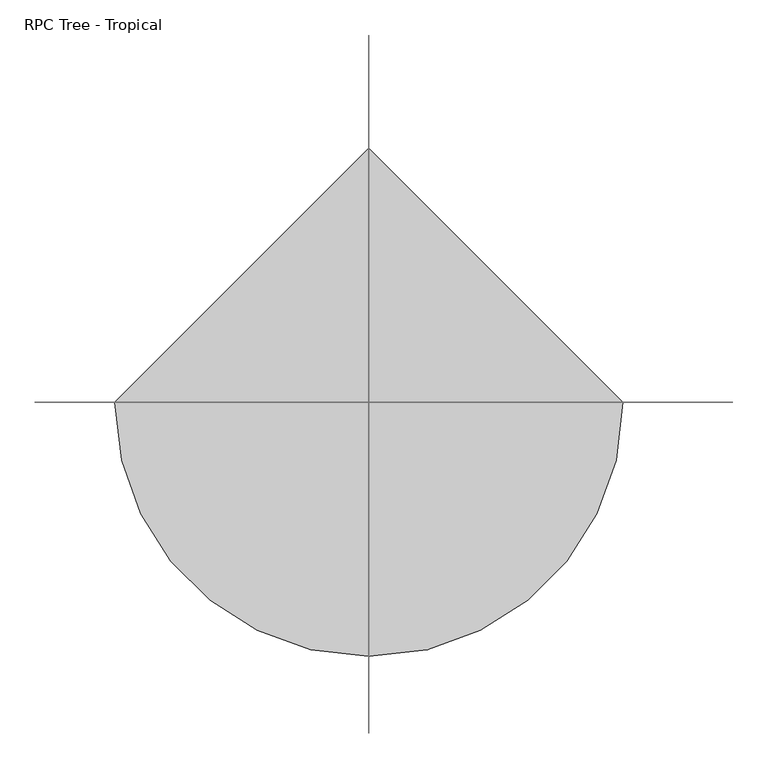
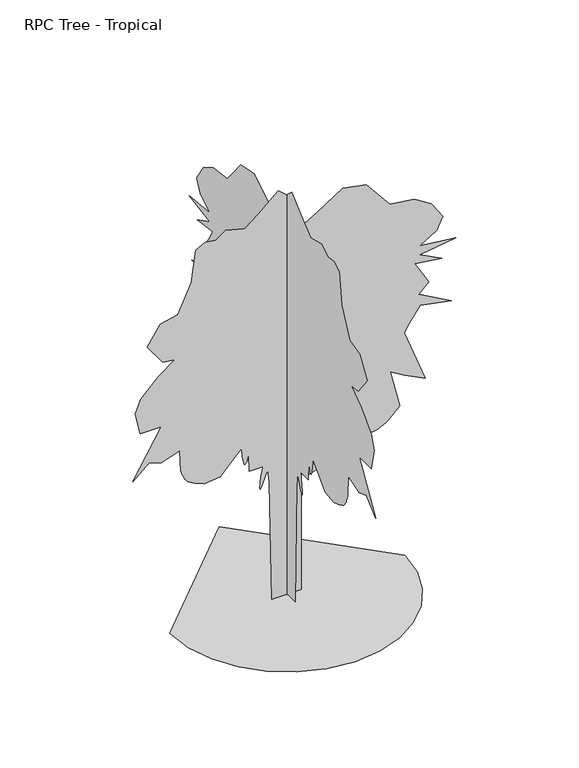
"""IFC4 building model written with IfcOpenShell, lengths in millimetres: geographic element geometry, RPC Tree - Tropical : Windmill Palm - 8'."""

from ifc_helpers import new_model, si_unit, origin, place, context, project, spatial, triangles, source, transform, mapped, element, save


def rpc_tree_tropical_d7a905c7(model_context):
    return source(origin(), model_context, "Body", "Tessellation", [
        triangles([(-0.2241189, -80.6803134, 0.0560704), (-0.2241181, -93.4507094, 708.3955685), (-0.2241176, -102.9729479, 784.5729681), (-0.2241171, -112.4304103, 759.6428038), (-0.2241163, -121.4992608, 736.1299221), (-0.2241158, -129.7908604, 715.4466642), (-0.2241156, -136.916343, 699.0127836), (-0.2241151, -142.4870876, 688.2406214), (-0.2241151, -146.1147278, 684.5474602), (-0.2241148, -147.4101338, 689.3505827), (-0.2241148, -146.9475984, 700.5392893), (-0.2241151, -145.6519381, 714.7252693), (-0.2241151, -143.662352, 731.4105881), (-0.2241153, -141.1175219, 750.0923693), (-0.2241156, -138.1563745, 770.2752216), (-0.2241156, -134.9173553, 791.458885), (-0.2241158, -131.5396545, 813.1404104), (-0.2241113, -207.7180624, 813.1404104), (-0.224111, -210.8920511, 914.7103008), (-0.2241108, -214.9636775, 900.580204), (-0.2241105, -218.9799477, 887.367057), (-0.2241105, -222.88496, 875.9827955), (-0.2241103, -226.6235945, 867.3493109), (-0.22411, -230.1402221, 862.3810095), (-0.2241097, -233.3789961, 861.9923704), (-0.2241095, -236.2847599, 867.1003435), (-0.2241095, -238.9129061, 876.4653969), (-0.2241092, -241.3744383, 887.9944897), (-0.2241092, -243.6972616, 901.3295042), (-0.224109, -245.9088635, 916.1097794), (-0.224109, -248.0373855, 931.9696398), (-0.2241087, -250.1102786, 948.5533659), (-0.2241087, -252.1552483, 965.4977531), (-0.2241016, -372.7715778, 838.5329012), (-0.2240963, -461.6464946, 829.010372), (-0.224095, -479.2563572, 835.8125004), (-0.224094, -496.4217339, 842.6147015), (-0.2240932, -512.6981023, 849.4168299), (-0.2240922, -527.64352, 856.2164148), (-0.2240914, -540.8134646, 863.0185432), (-0.2240907, -551.7608706, 869.8206717), (-0.2240902, -560.0413244, 876.6228727), (-0.2240899, -566.4726179, 884.1641275), (-0.2240897, -572.238436, 893.0389492), (-0.2240892, -577.4480018, 903.0236595), (-0.2240889, -582.2155887, 913.8974871), (-0.2240887, -586.6479126, 925.4367537), (-0.2240884, -590.8567037, 937.4204699), (-0.2240881, -594.9562717, 949.6252481), (-0.2240879, -601.3062839, 1073.4150759), (-0.2240815, -706.0511621, 1038.5001286), (-0.2240775, -775.8810568, 1063.8925467), (-0.2240719, -867.928418, 981.3677147), (-0.2240815, -706.0511621, 1254.3398609), (-0.2240744, -826.6659657, 1254.3398609), (-0.2240727, -855.233408, 1381.3021694), (-0.2240747, -823.4909414, 1460.6545933), (-0.2240805, -725.0961479, 1562.224411), (-0.2240861, -629.8712191, 1632.0567764), (-0.2240821, -699.7011137, 1641.5768349), (-0.224077, -785.4035133, 1759.0190849), (-0.2240813, -712.3985945, 1873.2865288), (-0.2240871, -614.0012575, 1895.5039227), (-0.2240917, -537.8238579, 2060.5586735), (-0.2240932, -512.4314034, 2247.8284927), (-0.2240963, -458.4714704, 2276.3959351), (-0.2240998, -398.1640686, 2266.8734058), (-0.2241034, -341.0291113, 2308.1358582), (-0.2241097, -233.1107712, 2279.5708866), (-0.2241143, -156.9326267, 2339.8783974), (-0.2241212, -42.6652782, 2438.2757343), (-0.2241265, 46.2093524, 2358.9233105), (-0.2241265, 46.2093524, 2263.6984543), (-0.2241298, 103.3427746, 2190.6960789), (-0.2241346, 182.6954255, 2235.1334827), (-0.224143, 322.3549604, 2327.1809166), (-0.2241509, 455.6672811, 2301.7884258), (-0.2241557, 538.1921494, 2200.2186081), (-0.2241588, 588.979638, 2136.7361458), (-0.2241672, 728.6394636, 2117.6910873), (-0.224173, 827.0368006, 2057.3837219), (-0.2241768, 890.5167194, 1958.986385), (-0.2241748, 855.6017721, 1889.1564903), (-0.2241689, 760.3793867, 1828.8489796), (-0.2241811, 963.5216383, 1806.6315857), (-0.2241689, 760.3793867, 1774.8890465), (-0.2241763, 884.1692144, 1711.4067295), (-0.2241674, 731.8118717, 1730.4516426), (-0.224172, 811.1642956, 1593.9668049), (-0.2241687, 754.0318817, 1540.0068718), (-0.2241796, 938.1291475, 1435.2621025), (-0.2241692, 763.5544109, 1470.1769772), (-0.2241654, 700.0719486, 1384.477121), (-0.2241636, 671.5045063, 1336.8647655), (-0.224171, 792.1193098, 1022.630167), (-0.2241639, 674.6795305, 1079.7650517), (-0.224159, 592.1520824, 1130.5500332), (-0.2241621, 646.1120155, 908.3627958), (-0.2241583, 579.4571451, 841.7079254), (-0.2241575, 566.5462689, 834.2758209), (-0.2241567, 553.721761, 827.1511105), (-0.224156, 541.0623593, 820.6359558), (-0.2241552, 528.6518887, 815.0378237), (-0.2241544, 516.5766809, 810.6613466), (-0.2241537, 504.9155105, 807.8089771), (-0.2241532, 493.7572526, 806.7929054), (-0.2241524, 482.6879065, 807.6260668), (-0.2241519, 471.2883479, 809.9577559), (-0.2241511, 459.6093733, 813.5392233), (-0.2241504, 447.7094456, 818.1188129), (-0.2241496, 435.6418682, 823.4503189), (-0.2241489, 423.4625244, 829.2796143), (-0.2241481, 411.2298409, 835.357877), (-0.2241481, 407.7779803, 839.4116993), (-0.2241478, 404.0213056, 843.2979446), (-0.2241476, 399.6524952, 846.8514341), (-0.2241471, 394.3692784, 849.9070616), (-0.2241468, 387.8643339, 852.2946339), (-0.2241463, 379.8302676, 853.8491175), (-0.2241458, 369.9674249, 854.4028627), (-0.224145, 357.1403735, 855.883659), (-0.224144, 340.8157522, 860.0289728), (-0.2241428, 321.5777186, 866.3967527), (-0.2241415, 300.0079778, 874.5400057), (-0.2241402, 276.6881621, 884.0168255), (-0.2241387, 252.2014664, 894.3800737), (-0.2241372, 227.1326114, 905.1877716), (-0.2241349, 185.8694142, 857.577887), (-0.2241349, 185.8694142, 778.2254631), (-0.2241362, 208.0876256, 702.0480635), (-0.2241316, 131.9097354, 676.6556454), (-0.2241288, 87.4725496, 800.4429296), (-0.2241293, 88.096376, 0.0), (-666.8181644, -2.5e-06, 0.2128606), (-649.2007078, -152.6793797, 0.2128611), (-599.0329851, -292.8908795, 0.2128626), (-520.3257617, -416.61723, 0.2128649), (-417.1023385, -519.8431603, 0.2128679), (-293.3760243, -598.5478403, 0.2128717), (-153.1642702, -648.715563, 0.2128758), (-0.4850755, -666.3330196, 0.2128804), (152.1942349, -648.715563, 0.2128849), (292.4057347, -598.5478403, 0.212889), (416.1320852, -519.8406169, 0.2128928), (519.3580155, -416.61723, 0.2128959), (598.0626955, -292.8908795, 0.2128981), (648.2304182, -152.6791254, 0.2128997), (665.8478748, 5.82e-05, 0.2129002), (-0.4851924, 666.3330196, 0.2128804), (-89.341994, 0.0001455, 0.1894216), (-102.11239, 0.0001057, 708.5276825), (-111.6346285, 9.96e-05, 784.7075529), (-121.0920909, 0.0001025, 759.7773886), (-130.1609414, 0.0001023, 736.2619635), (-138.4522867, 0.0001051, 715.581249), (-145.5777693, 0.000105, 699.144825), (-151.1487682, 0.0001048, 688.3726627), (-154.7761631, 0.0001075, 684.682045), (-156.0718144, 0.0001043, 689.4852402), (-155.6090338, 0.0001041, 700.6714033), (-154.3136187, 0.0001037, 714.8573833), (-152.3240326, 0.0001034, 731.5426294), (-149.7792025, 0.0001031, 750.2269541), (-146.8178008, 9.98e-05, 770.4098791), (-143.5790359, 9.95e-05, 791.590999), (-140.2013351, 9.92e-05, 813.2725245), (-216.3794887, 9.82e-05, 813.2725245), (-219.5534773, 9.2e-05, 914.8448856), (-223.6253582, 9.2e-05, 900.7147888), (-227.6413739, 9.5e-05, 887.4991711), (-231.5466406, 9.5e-05, 876.1173803), (-235.2852751, 9.49e-05, 867.4838957), (-238.8016665, 9.47e-05, 862.5131235), (-242.0406767, 9.44e-05, 862.1244844), (-244.9461861, 9.4e-05, 867.2324575), (-247.5745867, 9.35e-05, 876.5974382), (-250.0361189, 9.29e-05, 888.1290745), (-252.358706, 9.23e-05, 901.464089), (-254.5697811, 9.17e-05, 916.2418934), (-256.6983031, 9.1e-05, 932.1042246), (-258.7709418, 9.04e-05, 948.6854073), (-260.8156571, 8.97e-05, 965.6297945), (-381.4330041, 9.73e-05, 838.667486), (-470.3079208, 9.84e-05, 829.1450294), (-487.9177835, 9.66e-05, 835.9446144), (-505.0831601, 9.78e-05, 842.7467428), (-521.3595285, 9.61e-05, 849.5488712), (-536.3049462, 9.46e-05, 856.3510723), (-549.4748909, 9.61e-05, 863.1532007), (-560.4222968, 9.49e-05, 869.9527857), (-568.7027507, 9.4e-05, 876.7549141), (-575.1340442, 9.32e-05, 884.2962416), (-580.8998623, 9.24e-05, 893.1709906), (-586.109428, 9.17e-05, 903.1557735), (-590.8770149, 9.38e-05, 914.0295284), (-595.3093389, 9.31e-05, 925.568795), (-599.5181299, 9.23e-05, 937.5525839), (-603.617698, 9.16e-05, 949.759833), (-609.9677101, 8.15e-05, 1073.5496607), (-714.7125521, 8.49e-05, 1038.6347134), (-784.5424467, 8.37e-05, 1064.0272041), (-876.5898079, 8.96e-05, 981.4997561), (-714.7125521, 7.26e-05, 1254.4719749), (-835.3274282, 7.35e-05, 1254.4719749), (-863.8948706, 6.42e-05, 1381.4367542), (-832.152404, 5.89e-05, 1460.7891781), (-733.7575378, 5.3e-05, 1562.3589958), (-638.532609, 5.06e-05, 1632.1888905), (-708.3625763, 4.99e-05, 1641.7114197), (-794.0649759, 4.17e-05, 1759.1538151), (-721.0600571, 3.61e-05, 1873.4184975), (-622.6626474, 3.25e-05, 1895.6385075), (-546.4852841, 2.27e-05, 2060.6907875), (-521.0928297, 1.36e-05, 2247.9630775), (-467.1328966, 1.17e-05, 2276.5305199), (-406.8254949, 1.15e-05, 2267.0079906), (-349.6905375, 9.6e-06, 2308.270443), (-241.7724518, 1.13e-05, 2279.7030006), (-165.5940529, 7.6e-06, 2340.0103661), (-51.3267045, 3e-07, 2438.4078484), (37.5476695, 7.7e-06, 2359.0554245), (37.5476695, 1.34e-05, 2263.8330391), (94.6810849, 1.78e-05, 2190.8281929), (174.0337449, 1.48e-05, 2235.2655968), (313.6935342, 7e-06, 2327.3155014), (447.0058548, 1.09e-05, 2301.9230106), (529.5307231, 1.55e-05, 2200.3505768), (580.3182117, 1.9e-05, 2136.8682598), (719.978001, 2.04e-05, 2117.8258175), (818.3728672, 2.51e-05, 2057.515836), (881.8552568, 3.08e-05, 1959.1209698), (846.9403095, 3.56e-05, 1889.2910751), (751.7179241, 3.77e-05, 1828.9837097), (954.8601757, 3.9e-05, 1806.7636997), (751.7179241, 4.22e-05, 1775.0237766), (875.5077518, 4.35e-05, 1711.5413143), (723.1504818, 4.39e-05, 1730.5862274), (802.502833, 5.21e-05, 1594.0989189), (745.3704918, 5.45e-05, 1540.1416019), (929.4676849, 6.24e-05, 1435.3942165), (754.8929483, 6.03e-05, 1470.3117073), (691.4105587, 6.3e-05, 1384.609235), (662.8430437, 6.77e-05, 1336.9993504), (783.4579199, 8.5e-05, 1022.7647518), (666.0180679, 8.15e-05, 1079.8971657), (583.4906562, 7.85e-05, 1130.6820745), (637.4506256, 9.28e-05, 908.4973806), (570.7957189, 9.76e-05, 841.8399668), (557.8848427, 9.67e-05, 834.4104784), (545.0603348, 9.87e-05, 827.2831518), (532.4009331, 9.77e-05, 820.7706133), (519.9904624, 9.97e-05, 815.169865), (507.9152547, 9.88e-05, 810.7934607), (496.2540842, 9.78e-05, 807.9435619), (485.0932829, 9.98e-05, 806.9250195), (474.0264802, 9.87e-05, 807.7581808), (462.6269217, 9.77e-05, 810.0898699), (450.947947, 9.94e-05, 813.6712646), (439.0480193, 9.82e-05, 818.2534704), (426.980442, 9.7e-05, 823.5823603), (414.8010982, 9.86e-05, 829.4117283), (402.5684146, 9.74e-05, 835.4924618), (399.1165541, 9.69e-05, 839.5463568), (395.3598793, 9.65e-05, 843.4325294), (390.9910689, 9.6e-05, 846.9860189), (385.7078522, 9.54e-05, 850.0391029), (379.2029077, 9.48e-05, 852.4267479), (371.1688414, 9.69e-05, 853.9812315), (361.3059986, 9.6e-05, 854.5374475), (348.4789473, 9.48e-05, 856.0183165), (332.154326, 9.62e-05, 860.1635576), (312.9162924, 9.43e-05, 866.5288668), (291.3465516, 9.5e-05, 874.6721197), (268.0267359, 9.56e-05, 884.1488668), (243.5397858, 9.31e-05, 894.5146585), (218.4709308, 9.34e-05, 905.3224291), (177.2077336, 9.7e-05, 857.7099283), (177.2077336, 9.94e-05, 778.3575771), (199.4261993, 0.0001036, 702.1801775), (123.2483092, 0.0001063, 676.7876867), (78.8108599, 9.87e-05, 800.5775145), (79.4346863, 0.0001459, 0.1333563)], [[85, 84, 86], [53, 52, 54], [91, 90, 92], [87, 86, 88], [95, 94, 96], [96, 94, 97], [9, 8, 10], [52, 51, 54], [51, 50, 54], [1, 133, 2], [133, 132, 2], [2, 132, 3], [131, 130, 132], [130, 129, 132], [129, 128, 132], [18, 17, 19], [71, 70, 72], [72, 70, 73], [10, 8, 11], [8, 7, 11], [11, 7, 12], [7, 6, 12], [12, 6, 13], [6, 5, 13], [13, 5, 14], [5, 4, 14], [14, 4, 15], [4, 3, 15], [15, 3, 16], [16, 3, 17], [55, 54, 56], [89, 88, 90], [56, 54, 57], [57, 54, 58], [61, 60, 62], [62, 60, 63], [60, 59, 63], [25, 24, 26], [24, 23, 26], [26, 23, 27], [23, 22, 27], [27, 22, 28], [22, 21, 28], [28, 21, 29], [21, 20, 29], [29, 20, 30], [20, 19, 30], [30, 19, 31], [82, 81, 83], [83, 81, 84], [81, 80, 84], [80, 79, 84], [70, 69, 73], [98, 97, 99], [31, 19, 32], [99, 97, 100], [58, 54, 59], [100, 97, 101], [101, 97, 102], [102, 97, 103], [103, 97, 104], [104, 97, 105], [105, 97, 106], [106, 97, 107], [107, 97, 108], [108, 97, 109], [109, 97, 110], [110, 97, 111], [111, 97, 112], [112, 97, 113], [113, 97, 114], [114, 97, 115], [115, 97, 116], [116, 97, 117], [117, 97, 118], [118, 97, 119], [119, 97, 120], [120, 97, 121], [121, 97, 122], [122, 97, 123], [123, 97, 124], [124, 97, 125], [125, 97, 126], [126, 97, 127], [65, 64, 66], [66, 64, 67], [68, 67, 69], [67, 64, 69], [3, 132, 17], [73, 69, 74], [69, 64, 74], [64, 63, 74], [63, 59, 74], [17, 132, 19], [132, 128, 19], [128, 127, 19], [92, 90, 93], [76, 75, 77], [77, 75, 78], [78, 75, 79], [79, 75, 84], [75, 74, 84], [74, 59, 84], [84, 59, 86], [86, 59, 88], [88, 59, 90], [90, 59, 93], [93, 59, 94], [94, 59, 97], [97, 59, 127], [127, 59, 19], [32, 19, 33], [19, 59, 33], [59, 54, 33], [54, 50, 33], [33, 50, 34], [50, 49, 34], [34, 49, 35], [35, 49, 36], [36, 49, 37], [49, 48, 37], [37, 48, 38], [48, 47, 38], [38, 47, 39], [47, 46, 39], [39, 46, 40], [46, 45, 40], [45, 44, 40], [40, 44, 41], [44, 43, 41], [41, 43, 42], [148, 149, 134], [147, 148, 134], [147, 134, 135], [146, 147, 135], [146, 135, 136], [146, 136, 137], [145, 146, 137], [144, 145, 137], [144, 137, 138], [144, 138, 139], [144, 139, 140], [144, 140, 141], [144, 141, 142], [144, 142, 143], [233, 234, 235], [201, 202, 203], [239, 240, 241], [235, 236, 237], [243, 244, 245], [243, 245, 246], [157, 158, 159], [200, 201, 203], [199, 200, 203], [282, 150, 151], [281, 282, 151], [281, 151, 152], [279, 280, 281], [278, 279, 281], [277, 278, 281], [166, 167, 168], [219, 220, 221], [219, 221, 222], [157, 159, 160], [156, 157, 160], [156, 160, 161], [155, 156, 161], [155, 161, 162], [154, 155, 162], [154, 162, 163], [153, 154, 163], [153, 163, 164], [152, 153, 164], [152, 164, 165], [152, 165, 166], [203, 204, 205], [237, 238, 239], [203, 205, 206], [203, 206, 207], [209, 210, 211], [209, 211, 212], [208, 209, 212], [173, 174, 175], [172, 173, 175], [172, 175, 176], [171, 172, 176], [171, 176, 177], [170, 171, 177], [170, 177, 178], [169, 170, 178], [169, 178, 179], [168, 169, 179], [168, 179, 180], [230, 231, 232], [230, 232, 233], [229, 230, 233], [228, 229, 233], [218, 219, 222], [246, 247, 248], [168, 180, 181], [246, 248, 249], [203, 207, 208], [246, 249, 250], [246, 250, 251], [246, 251, 252], [246, 252, 253], [246, 253, 254], [246, 254, 255], [246, 255, 256], [246, 256, 257], [246, 257, 258], [246, 258, 259], [246, 259, 260], [246, 260, 261], [246, 261, 262], [246, 262, 263], [246, 263, 264], [246, 264, 265], [246, 265, 266], [246, 266, 267], [246, 267, 268], [246, 268, 269], [246, 269, 270], [246, 270, 271], [246, 271, 272], [246, 272, 273], [246, 273, 274], [246, 274, 275], [246, 275, 276], [213, 214, 215], [213, 215, 216], [216, 217, 218], [213, 216, 218], [281, 152, 166], [218, 222, 223], [213, 218, 223], [212, 213, 223], [208, 212, 223], [281, 166, 168], [277, 281, 168], [276, 277, 168], [239, 241, 242], [224, 225, 226], [224, 226, 227], [224, 227, 228], [224, 228, 233], [223, 224, 233], [208, 223, 233], [208, 233, 235], [208, 235, 237], [208, 237, 239], [208, 239, 242], [208, 242, 243], [208, 243, 246], [208, 246, 276], [208, 276, 168], [168, 181, 182], [208, 168, 182], [203, 208, 182], [199, 203, 182], [199, 182, 183], [198, 199, 183], [198, 183, 184], [198, 184, 185], [198, 185, 186], [197, 198, 186], [197, 186, 187], [196, 197, 187], [196, 187, 188], [195, 196, 188], [195, 188, 189], [194, 195, 189], [193, 194, 189], [193, 189, 190], [192, 193, 190], [192, 190, 191]], closed=False),
    ])


if __name__ == "__main__":
    model = new_model("IFC4")
    model_context = context("Model", 3, world=origin())
    ifc_project = project(units=[si_unit("LENGTHUNIT", "METRE", prefix="MILLI")], contexts=[model_context])
    site = spatial("IfcSite", under=ifc_project)
    building = spatial("IfcBuilding", under=site)
    placement = place(None, origin())
    rpc_tree_tropical_shape = rpc_tree_tropical_d7a905c7(model_context)
    element("IfcGeographicElement", 1, ObjectType="RPC Tree - Tropical : Windmill Palm - 8'", at=placement, inside=building, context=model_context, shape_type="MappedRepresentation", body=[
        mapped(rpc_tree_tropical_shape, transform((0.0, 0.0, 0.0), x_axis=(1.0, 0.0, 0.0), y_axis=(0.0, 1.0, 0.0), z_axis=(0.0, 0.0, 1.0))),
    ])
    save(model, "model.ifc")
